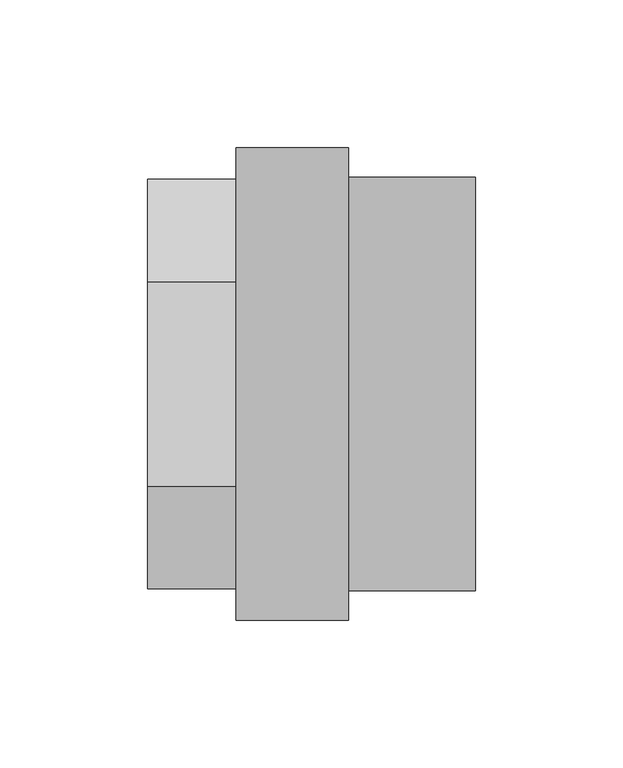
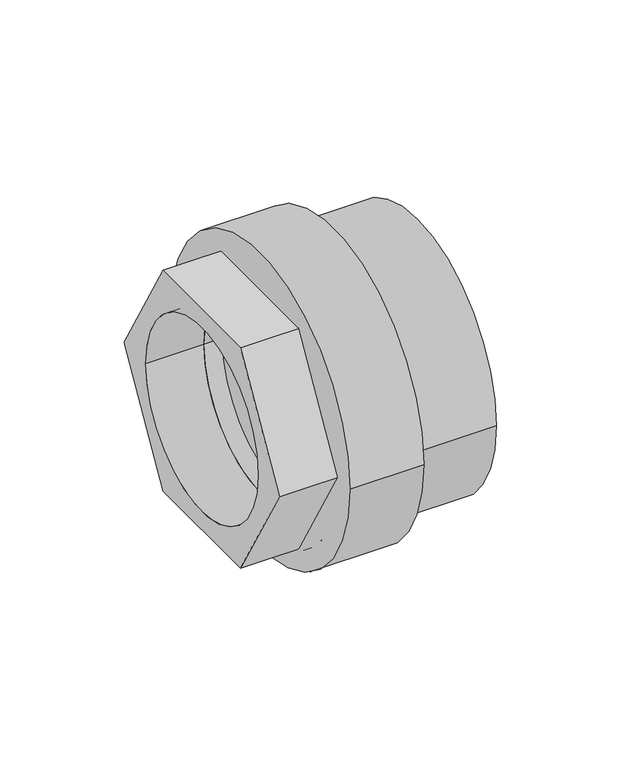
"""IFC4 building model written with IfcOpenShell, lengths in millimetres: pipe fitting geometry, NIRON RED termofusion roscado enlace rosca hembra hexagonal : Estándar."""

from ifc_helpers import new_model, si_unit, frame, origin, place, context, project, spatial, polyline, circle_curve, source, transform, mapped, element, save
from ifc_brep_helpers import plane_surface, cylinder_surface, revolved_surface, advanced_brep


def pipe_fitting_cc758982(model_context):
    return source(origin(), model_context, "Body", "AdvancedBrep", [
        advanced_brep(
        [(68.0, 80.0, 0.0), (68.0, -80.0, 0.0), (30.0, 80.0, 0.0), (30.0, -80.0, 0.0), (30.0, -50.0, 0.0), (30.0, 50.0, 0.0), (39.3, 50.0, 0.0), (39.3, -50.0, 0.0)],
        [
            (0, 1, circle_curve(frame((68.0, 0.0, 0.0), z_axis=(1.0, 0.0, 0.0), x_axis=(0.0, -1.0, 0.0)), 80.0)),
            (1, 0, circle_curve(frame((68.0, 0.0, 0.0), z_axis=(1.0, 0.0, 0.0), x_axis=(0.0, -1.0, 0.0)), 80.0)),
            (2, 3, circle_curve(frame((30.0, 0.0, 0.0), z_axis=(-1.0, 0.0, 0.0), x_axis=(0.0, -1.0, 0.0)), 80.0)),
            (3, 2, circle_curve(frame((30.0, 0.0, 0.0), z_axis=(-1.0, 0.0, 0.0), x_axis=(0.0, -1.0, 0.0)), 80.0)),
            (4, 5, circle_curve(frame((30.0, 0.0, 0.0), z_axis=(1.0, 0.0, 0.0), x_axis=(0.0, -1.0, 0.0)), 50.0)),
            (5, 4, circle_curve(frame((30.0, 0.0, 0.0), z_axis=(1.0, 0.0, 0.0), x_axis=(0.0, -1.0, 0.0)), 50.0)),
            (1, 3),
            (2, 0),
            (6, 7, circle_curve(frame((39.3, 0.0, 0.0), z_axis=(-1.0, 0.0, 0.0), x_axis=(0.0, -1.0, 0.0)), 50.0)),
            (7, 6, circle_curve(frame((39.3, 0.0, 0.0), z_axis=(-1.0, 0.0, 0.0), x_axis=(0.0, -1.0, 0.0)), 50.0)),
            (6, 5),
            (4, 7),
        ],
        [
            plane_surface(frame((68.0, -80.0, 0.0), z_axis=(1.0, 0.0, 0.0), x_axis=(0.0, 0.0, -1.0))),
            plane_surface(frame((30.0, -80.0, 0.0), z_axis=(-1.0, 0.0, 0.0), x_axis=(0.0, 0.0, 1.0))),
            cylinder_surface(frame((68.0, 0.0, 0.0), z_axis=(-1.0, 0.0, 0.0), x_axis=(0.0, -1.0, 0.0)), 80.0),
            plane_surface(frame((39.3, -50.0, 0.0), z_axis=(-1.0, 0.0, 0.0), x_axis=(0.0, 0.0, -1.0))),
            revolved_surface(polyline([(30.0, -50.0, 0.0), (39.3, -50.0, 0.0)]), (39.3, 0.0, 0.0), (-1.0, 0.0, 0.0)),
        ],
        [
            (0, [[1, 2]]),
            (1, [[3, 4], [5, 6]]),
            (2, [[-2, 7, -3, 8]]),
            (2, [[-1, -8, -4, -7]]),
            (3, [[9, 10]]),
            (4, [[-9, 11, -5, 12]]),
            (4, [[-10, -12, -6, -11]]),
        ],
    ),
        advanced_brep(
        [(30.0, 70.0, 0.0), (30.0, -70.0, 0.0), (30.0, -50.0, 0.0), (30.0, 50.0, 0.0), (111.0, 70.0, 0.0), (111.0, -70.0, 0.0), (39.3, 50.0, 0.0), (39.3, -50.0, 0.0)],
        [
            (0, 1, circle_curve(frame((30.0, 0.0, 0.0), z_axis=(-1.0, 0.0, 0.0), x_axis=(0.0, -1.0, 0.0)), 70.0)),
            (1, 0, circle_curve(frame((30.0, 0.0, 0.0), z_axis=(-1.0, 0.0, 0.0), x_axis=(0.0, -1.0, 0.0)), 70.0)),
            (2, 3, circle_curve(frame((30.0, 0.0, 0.0), z_axis=(1.0, 0.0, 0.0), x_axis=(0.0, -1.0, 0.0)), 50.0)),
            (3, 2, circle_curve(frame((30.0, 0.0, 0.0), z_axis=(1.0, 0.0, 0.0), x_axis=(0.0, -1.0, 0.0)), 50.0)),
            (4, 5, circle_curve(frame((111.0, 0.0, 0.0), z_axis=(1.0, 0.0, 0.0), x_axis=(0.0, -1.0, 0.0)), 70.0)),
            (5, 4, circle_curve(frame((111.0, 0.0, 0.0), z_axis=(1.0, 0.0, 0.0), x_axis=(0.0, -1.0, 0.0)), 70.0)),
            (0, 4),
            (5, 1),
            (6, 7, circle_curve(frame((39.3, 0.0, 0.0), z_axis=(-1.0, 0.0, 0.0), x_axis=(0.0, -1.0, 0.0)), 50.0)),
            (7, 6, circle_curve(frame((39.3, 0.0, 0.0), z_axis=(-1.0, 0.0, 0.0), x_axis=(0.0, -1.0, 0.0)), 50.0)),
            (6, 3),
            (2, 7),
        ],
        [
            plane_surface(frame((30.0, -70.0, 0.0), z_axis=(-1.0, 0.0, 0.0), x_axis=(0.0, 0.0, 1.0))),
            plane_surface(frame((111.0, -70.0, 0.0), z_axis=(1.0, 0.0, 0.0), x_axis=(0.0, 0.0, -1.0))),
            cylinder_surface(frame((111.0, 0.0, 0.0), z_axis=(-1.0, 0.0, 0.0), x_axis=(0.0, -1.0, 0.0)), 70.0),
            plane_surface(frame((39.3, -50.0, 0.0), z_axis=(-1.0, 0.0, 0.0), x_axis=(0.0, 0.0, -1.0))),
            revolved_surface(polyline([(30.0, -50.0, 0.0), (39.3, -50.0, 0.0)]), (39.3, 0.0, 0.0), (-1.0, 0.0, 0.0)),
        ],
        [
            (0, [[1, 2], [3, 4]]),
            (1, [[5, 6]]),
            (2, [[-1, 7, -6, 8]]),
            (2, [[-2, -8, -5, -7]]),
            (3, [[9, 10]]),
            (4, [[-9, 11, -3, 12]]),
            (4, [[-10, -12, -4, -11]]),
        ],
    ),
        advanced_brep(
        [(45.0, -34.6410162, -60.0), (45.0, 34.6410162, -60.0), (45.0, 69.2820323, 0.0), (45.0, 34.6410162, 60.0), (45.0, -34.6410162, 60.0), (45.0, -69.2820323, 0.0), (0.0, -34.6410162, -60.0), (0.0, -69.2820323, 0.0), (0.0, -34.6410162, 60.0), (0.0, 34.6410162, 60.0), (0.0, 69.2820323, 0.0), (0.0, 34.6410162, -60.0), (0.0, -50.0, 0.0), (0.0, 50.0, 0.0), (39.3, 50.0, 0.0), (39.3, -50.0, 0.0)],
        [
            (0, 1),
            (1, 2),
            (2, 3),
            (3, 4),
            (4, 5),
            (5, 0),
            (6, 7),
            (7, 8),
            (8, 9),
            (9, 10),
            (10, 11),
            (11, 6),
            (12, 13, circle_curve(frame((0.0, 0.0, 0.0), z_axis=(1.0, 0.0, 0.0), x_axis=(0.0, -1.0, 0.0)), 50.0)),
            (13, 12, circle_curve(frame((0.0, 0.0, 0.0), z_axis=(1.0, 0.0, 0.0), x_axis=(0.0, -1.0, 0.0)), 50.0)),
            (0, 6),
            (11, 1),
            (10, 2),
            (9, 3),
            (8, 4),
            (7, 5),
            (14, 15, circle_curve(frame((39.3, 0.0, 0.0), z_axis=(-1.0, 0.0, 0.0), x_axis=(0.0, -1.0, 0.0)), 50.0)),
            (15, 14, circle_curve(frame((39.3, 0.0, 0.0), z_axis=(-1.0, 0.0, 0.0), x_axis=(0.0, -1.0, 0.0)), 50.0)),
            (14, 13),
            (12, 15),
        ],
        [
            plane_surface(frame((45.0, 0.0, 0.0), z_axis=(1.0, 0.0, 0.0), x_axis=(0.0, 0.0, 1.0))),
            plane_surface(frame((0.0, 0.0, 0.0), z_axis=(-1.0, 0.0, 0.0), x_axis=(0.0, 0.0, 1.0))),
            plane_surface(frame((45.0, -34.6410162, -60.0), z_axis=(0.0, 0.0, -1.0), x_axis=(-1.0, 0.0, 0.0))),
            plane_surface(frame((45.0, 34.6410162, -60.0), z_axis=(0.0, 0.8660254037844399, -0.49999999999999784), x_axis=(-1.0, 0.0, 0.0))),
            plane_surface(frame((45.0, 69.2820323, 0.0), z_axis=(0.0, 0.866025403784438, 0.500000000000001), x_axis=(-1.0, 0.0, 0.0))),
            plane_surface(frame((45.0, 34.6410162, 60.0), z_axis=(0.0, 0.0, 1.0), x_axis=(-1.0, 0.0, 0.0))),
            plane_surface(frame((45.0, -34.6410162, 60.0), z_axis=(0.0, -0.8660254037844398, 0.499999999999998), x_axis=(-1.0, 0.0, 0.0))),
            plane_surface(frame((45.0, -69.2820323, 0.0), z_axis=(0.0, -0.8660254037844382, -0.500000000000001), x_axis=(-1.0, 0.0, 0.0))),
            plane_surface(frame((39.3, -50.0, 0.0), z_axis=(-1.0, 0.0, 0.0), x_axis=(0.0, 0.0, -1.0))),
            revolved_surface(polyline([(0.0, -50.0, 0.0), (39.3, -50.0, 0.0)]), (39.3, 0.0, 0.0), (-1.0, 0.0, 0.0)),
        ],
        [
            (0, [[1, 2, 3, 4, 5, 6]]),
            (1, [[7, 8, 9, 10, 11, 12], [13, 14]]),
            (2, [[-1, 15, -12, 16]]),
            (3, [[-2, -16, -11, 17]]),
            (4, [[-3, -17, -10, 18]]),
            (5, [[-4, -18, -9, 19]]),
            (6, [[-5, -19, -8, 20]]),
            (7, [[-6, -20, -7, -15]]),
            (8, [[21, 22]]),
            (9, [[-21, 23, -13, 24]]),
            (9, [[-22, -24, -14, -23]]),
        ],
    ),
    ])


if __name__ == "__main__":
    model = new_model("IFC4")
    model_context = context("Model", 3, world=origin())
    ifc_project = project(units=[si_unit("LENGTHUNIT", "METRE", prefix="MILLI")], contexts=[model_context])
    site = spatial("IfcSite", under=ifc_project)
    building = spatial("IfcBuilding", under=site)
    placement = place(None, origin())
    pipe_fitting_shape = pipe_fitting_cc758982(model_context)
    element("IfcPipeFitting", 1, ObjectType="NIRON RED termofusion roscado enlace rosca hembra hexagonal : Estándar", at=placement, inside=building, context=model_context, shape_type="MappedRepresentation", body=[
        mapped(pipe_fitting_shape, transform((0.0, 0.0, 0.0), x_axis=(1.0, 0.0, 0.0), y_axis=(0.0, 1.0, 0.0), z_axis=(0.0, 0.0, 1.0))),
    ])
    save(model, "model.ifc")
